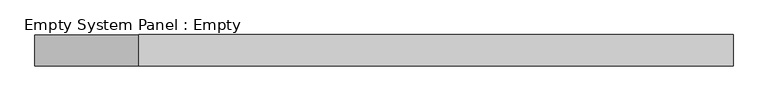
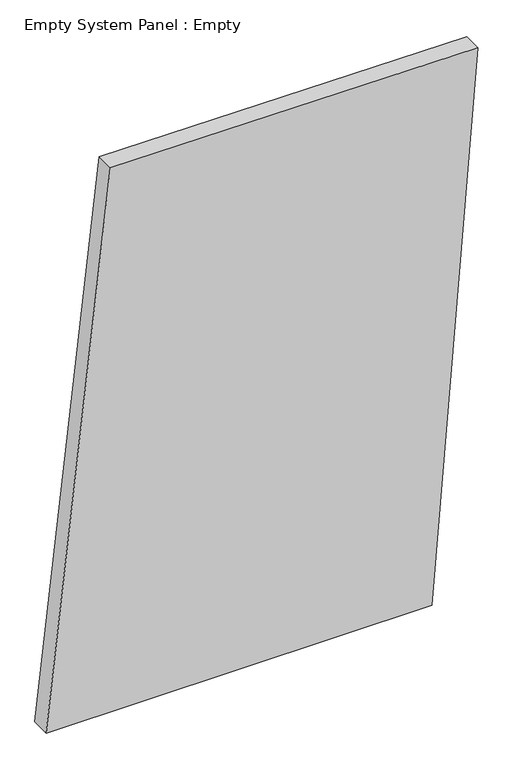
"""IFC4 building model written with IfcOpenShell, lengths in millimetres: plate geometry, Empty System Panel : Empty."""

from ifc_helpers import new_model, si_unit, frame, origin, place, context, project, spatial, polyline, outline, extrude, source, transform, mapped, element, save


def empty_system_panel_empty_cb121b9c(model_context):
    return source(origin(), model_context, "Body", "SweptSolid", [
        extrude(outline(polyline([(0.0, -1130.0159734), (0.0, 889.676746), (2998.0347268, 1130.0159734), (3007.110612, -793.6846716), (0.0, -1130.0159734)])), frame((0.0, -50.8, 0.0), z_axis=(0.0, 1.0, 0.0), x_axis=(0.0, 0.0, 1.0)), (0.0, 0.0, 1.0), 101.6),
    ])


if __name__ == "__main__":
    model = new_model("IFC4")
    model_context = context("Model", 3, world=origin())
    ifc_project = project(units=[si_unit("LENGTHUNIT", "METRE", prefix="MILLI")], contexts=[model_context])
    site = spatial("IfcSite", under=ifc_project)
    building = spatial("IfcBuilding", under=site)
    placement = place(None, origin())
    empty_system_panel_empty_shape = empty_system_panel_empty_cb121b9c(model_context)
    element("IfcPlate", 1, ObjectType="Empty System Panel : Empty", at=placement, inside=building, context=model_context, shape_type="MappedRepresentation", body=[
        mapped(empty_system_panel_empty_shape, transform((0.0, 0.0, 0.0), x_axis=(1.0, 0.0, 0.0), y_axis=(0.0, 1.0, 0.0), z_axis=(0.0, 0.0, 1.0))),
    ])
    save(model, "model.ifc")
